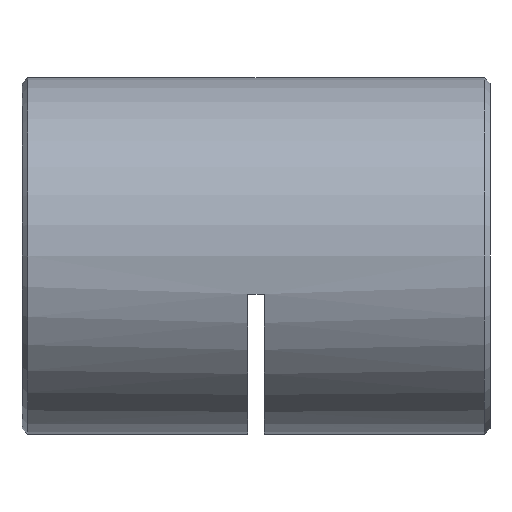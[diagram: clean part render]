
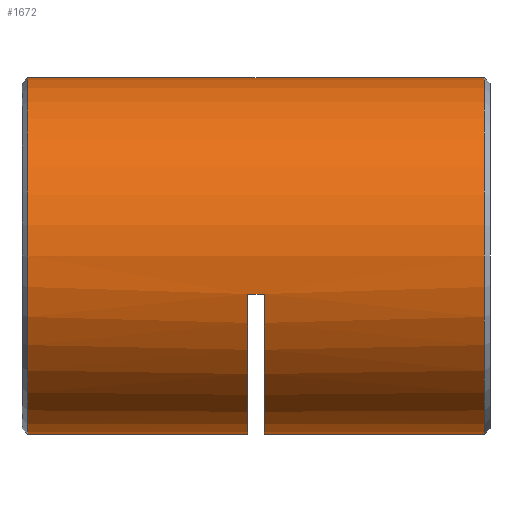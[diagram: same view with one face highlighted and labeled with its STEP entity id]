
A CAD part, left-side view. The second image highlights one B-rep face of the part: STEP entity #1672.
In plain terms, the highlighted cylindrical face has radius 16 mm (diameter 32 mm), a partial arc.
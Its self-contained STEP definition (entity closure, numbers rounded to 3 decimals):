
#30 = LINE ( 'NONE', #4464, #5054 ) ;
#204 = DIRECTION ( 'NONE',  ( 0., 0., 1. ) ) ;
#209 = ORIENTED_EDGE ( 'NONE', *, *, #4753, .T. ) ;
#210 = LINE ( 'NONE', #2694, #281 ) ;
#281 = VECTOR ( 'NONE', #5143, 1000. ) ;
#402 = VERTEX_POINT ( 'NONE', #853 ) ;
#466 = DIRECTION ( 'NONE',  ( 0., 0., -1. ) ) ;
#484 = VERTEX_POINT ( 'NONE', #4736 ) ;
#552 = ORIENTED_EDGE ( 'NONE', *, *, #1075, .T. ) ;
#690 = FACE_OUTER_BOUND ( 'NONE', #1300, .T. ) ;
#692 = VERTEX_POINT ( 'NONE', #5637 ) ;
#842 = CARTESIAN_POINT ( 'NONE',  ( -15.632, 21.25, -3.413 ) ) ;
#853 = CARTESIAN_POINT ( 'NONE',  ( 0., 22., -16. ) ) ;
#860 = DIRECTION ( 'NONE',  ( 0., 0., -1. ) ) ;
#987 = DIRECTION ( 'NONE',  ( 0., -1., 0. ) ) ;
#1047 = CARTESIAN_POINT ( 'NONE',  ( 0., 41.75, 16. ) ) ;
#1075 = EDGE_CURVE ( 'NONE', #3976, #3514, #4312, .T. ) ;
#1110 = ORIENTED_EDGE ( 'NONE', *, *, #4866, .T. ) ;
#1126 = ORIENTED_EDGE ( 'NONE', *, *, #2618, .T. ) ;
#1259 = DIRECTION ( 'NONE',  ( 0., 0., -1. ) ) ;
#1300 = EDGE_LOOP ( 'NONE', ( #4959, #552, #1126, #5686, #1110, #1308, #209, #6126 ) ) ;
#1308 = ORIENTED_EDGE ( 'NONE', *, *, #4354, .T. ) ;
#1364 = VECTOR ( 'NONE', #4302, 1000. ) ;
#1460 = CYLINDRICAL_SURFACE ( 'NONE', #3582, 16. ) ;
#1493 = CARTESIAN_POINT ( 'NONE',  ( 0., 42.5, 16. ) ) ;
#1556 = CARTESIAN_POINT ( 'NONE',  ( 0., 20.5, -16. ) ) ;
#1559 = VERTEX_POINT ( 'NONE', #5617 ) ;
#1593 = LINE ( 'NONE', #1493, #2296 ) ;
#1617 = CARTESIAN_POINT ( 'NONE',  ( 0., 0.75, -16. ) ) ;
#1659 = CARTESIAN_POINT ( 'NONE',  ( 0., 20.5, 0. ) ) ;
#1672 = ADVANCED_FACE ( 'NONE', ( #690 ), #1460, .T. ) ;
#1883 = AXIS2_PLACEMENT_3D ( 'NONE', #2144, #3126, #204 ) ;
#2003 = EDGE_CURVE ( 'NONE', #3476, #484, #3845, .T. ) ;
#2103 = DIRECTION ( 'NONE',  ( 0., -1., 0. ) ) ;
#2144 = CARTESIAN_POINT ( 'NONE',  ( 0., 0.75, 0. ) ) ;
#2156 = DIRECTION ( 'NONE',  ( 0., -1., 0. ) ) ;
#2211 = DIRECTION ( 'NONE',  ( 0., -1., 0. ) ) ;
#2296 = VECTOR ( 'NONE', #2156, 1000. ) ;
#2427 = LINE ( 'NONE', #842, #1364 ) ;
#2618 = EDGE_CURVE ( 'NONE', #3514, #402, #210, .T. ) ;
#2694 = CARTESIAN_POINT ( 'NONE',  ( 0., 42.5, -16. ) ) ;
#2970 = CIRCLE ( 'NONE', #4674, 16. ) ;
#3034 = DIRECTION ( 'NONE',  ( 0., -1., 0. ) ) ;
#3126 = DIRECTION ( 'NONE',  ( 0., 1., 0. ) ) ;
#3255 = CARTESIAN_POINT ( 'NONE',  ( 0., 41.75, -16. ) ) ;
#3476 = VERTEX_POINT ( 'NONE', #1617 ) ;
#3514 = VERTEX_POINT ( 'NONE', #3255 ) ;
#3582 = AXIS2_PLACEMENT_3D ( 'NONE', #5237, #2211, #1259 ) ;
#3845 = CIRCLE ( 'NONE', #1883, 16. ) ;
#3958 = AXIS2_PLACEMENT_3D ( 'NONE', #5947, #987, #466 ) ;
#3976 = VERTEX_POINT ( 'NONE', #1047 ) ;
#4094 = VERTEX_POINT ( 'NONE', #1556 ) ;
#4302 = DIRECTION ( 'NONE',  ( 0., -1., 0. ) ) ;
#4312 = CIRCLE ( 'NONE', #3958, 16. ) ;
#4335 = EDGE_CURVE ( 'NONE', #3976, #484, #1593, .T. ) ;
#4354 = EDGE_CURVE ( 'NONE', #692, #4094, #2970, .T. ) ;
#4464 = CARTESIAN_POINT ( 'NONE',  ( 0., 42.5, -16. ) ) ;
#4539 = EDGE_CURVE ( 'NONE', #1559, #402, #4589, .T. ) ;
#4589 = CIRCLE ( 'NONE', #4762, 16. ) ;
#4674 = AXIS2_PLACEMENT_3D ( 'NONE', #1659, #2103, #5580 ) ;
#4736 = CARTESIAN_POINT ( 'NONE',  ( 0., 0.75, 16. ) ) ;
#4753 = EDGE_CURVE ( 'NONE', #4094, #3476, #30, .T. ) ;
#4762 = AXIS2_PLACEMENT_3D ( 'NONE', #6249, #6270, #860 ) ;
#4866 = EDGE_CURVE ( 'NONE', #1559, #692, #2427, .T. ) ;
#4959 = ORIENTED_EDGE ( 'NONE', *, *, #4335, .F. ) ;
#5054 = VECTOR ( 'NONE', #3034, 1000. ) ;
#5143 = DIRECTION ( 'NONE',  ( 0., -1., 0. ) ) ;
#5237 = CARTESIAN_POINT ( 'NONE',  ( 0., 42.5, 0. ) ) ;
#5580 = DIRECTION ( 'NONE',  ( 0., 0., -1. ) ) ;
#5617 = CARTESIAN_POINT ( 'NONE',  ( -15.632, 22., -3.413 ) ) ;
#5637 = CARTESIAN_POINT ( 'NONE',  ( -15.632, 20.5, -3.413 ) ) ;
#5686 = ORIENTED_EDGE ( 'NONE', *, *, #4539, .F. ) ;
#5947 = CARTESIAN_POINT ( 'NONE',  ( 0., 41.75, 0. ) ) ;
#6126 = ORIENTED_EDGE ( 'NONE', *, *, #2003, .T. ) ;
#6249 = CARTESIAN_POINT ( 'NONE',  ( 0., 22., 0. ) ) ;
#6270 = DIRECTION ( 'NONE',  ( 0., -1., 0. ) ) ;
